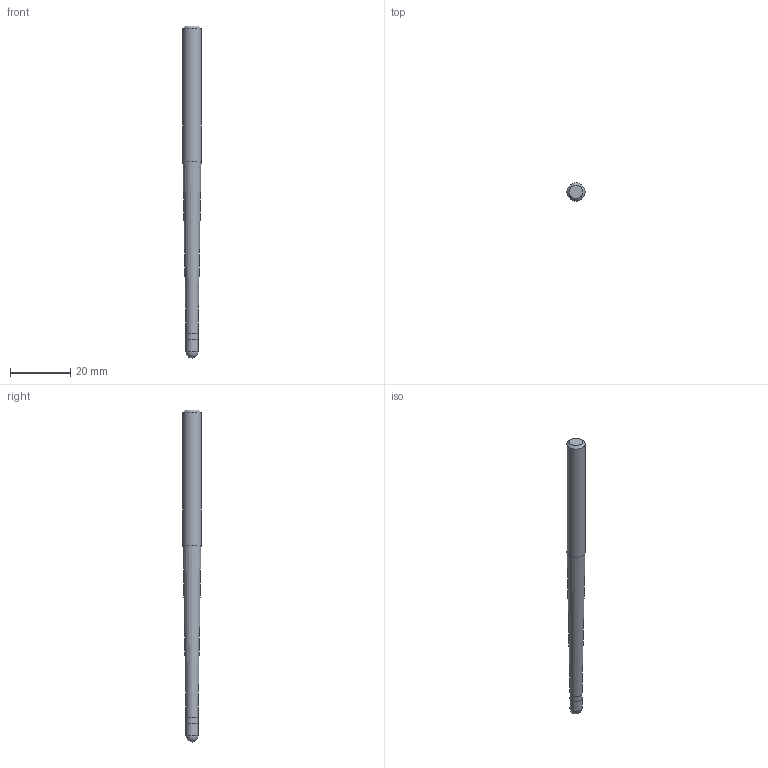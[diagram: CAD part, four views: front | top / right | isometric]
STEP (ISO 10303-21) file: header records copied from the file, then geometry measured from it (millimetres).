
FILE_DESCRIPTION((''),'2;1');
FILE_NAME('C:\Users\nsx150\AppData\Local\Temp\Mastercam 2021\GGQ513GCGU\TEMP.step','2021-11-19T10:38:59',(''),(''),'STEP Write','Mastercam 2021 ... CNC Software, Inc.','');
FILE_SCHEMA(('AUTOMOTIVE_DESIGN'));
Length unit declared in the file: millimetre
Products named in the file (1): None
Bounding box: 6 x 6 x 110 mm (x, y, z)
Volume: 2487 mm3; surface area: 1885.3 mm2
Topology: 2 solids, 2 shells, 9 faces, 14 edges, 8 vertices
Faces by surface type: plane 3, cylinder 3, cone 2, sphere 1
Full cylindrical faces by diameter (mm): 3.98 x1, 4 x1, 6 x1
Entity records: 211 total; most frequent: DIRECTION 36, CARTESIAN_POINT 25, AXIS2_PLACEMENT_3D 18, ORIENTED_EDGE 14, EDGE_LOOP 14, STYLED_ITEM 12, ADVANCED_FACE 9, FACE_BOUND 8
